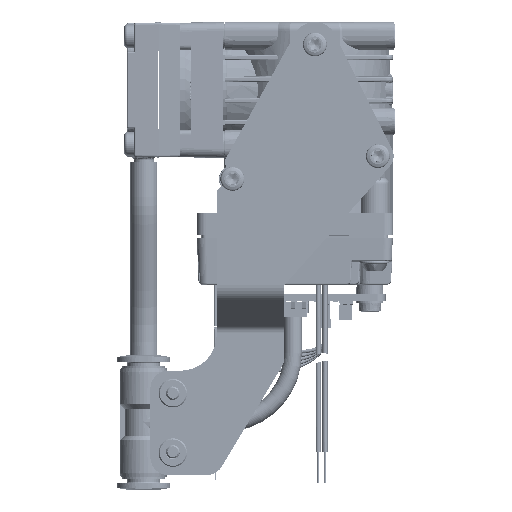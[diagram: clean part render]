
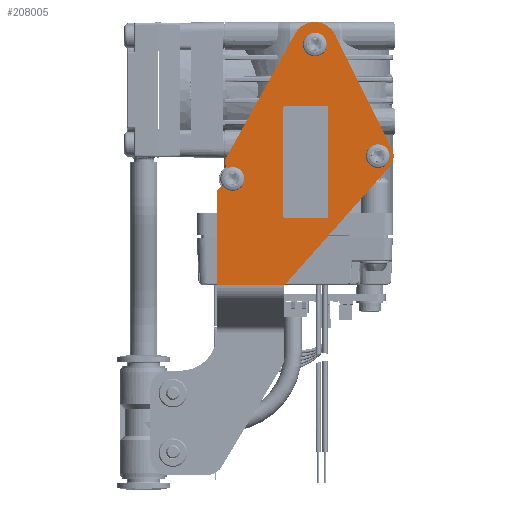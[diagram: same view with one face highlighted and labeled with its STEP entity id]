
A CAD part, left-side view. The second image highlights one B-rep face of the part: STEP entity #208005.
In plain terms, the highlighted planar face has unit normal (-1, 0, 0).
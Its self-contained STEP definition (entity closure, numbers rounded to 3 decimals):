
#45142=DIRECTION('',(0.,1.,0.));
#45143=VECTOR('',#45142,15.);
#45144=CARTESIAN_POINT('',(-18.7,6.8,-43.4));
#45145=LINE('',#45144,#45143);
#45359=CARTESIAN_POINT('',(-18.7,18.3,-19.75));
#45360=DIRECTION('',(1.,0.,0.));
#45361=DIRECTION('',(0.,0.,1.));
#45362=AXIS2_PLACEMENT_3D('',#45359,#45360,#45361);
#45364=CARTESIAN_POINT('',(-18.7,18.3,-19.75));
#45365=DIRECTION('',(1.,0.,0.));
#45366=DIRECTION('',(0.,0.421,0.907));
#45367=AXIS2_PLACEMENT_3D('',#45364,#45365,#45366);
#45369=CARTESIAN_POINT('',(-18.7,17.969,-16.065));
#45370=DIRECTION('',(-1.,0.,0.));
#45371=DIRECTION('',(0.,0.874,0.486));
#45372=AXIS2_PLACEMENT_3D('',#45369,#45370,#45371);
#45374=DIRECTION('',(0.,-0.486,0.874));
#45375=VECTOR('',#45374,31.599);
#45376=CARTESIAN_POINT('',(-18.7,19.717,-15.094));
#45377=LINE('',#45376,#45375);
#45378=CARTESIAN_POINT('',(-18.7,0.,10.1));
#45379=DIRECTION('',(1.,0.,0.));
#45380=DIRECTION('',(0.,0.874,0.486));
#45381=AXIS2_PLACEMENT_3D('',#45378,#45379,#45380);
#45383=DIRECTION('',(0.,-0.445,-0.896));
#45384=VECTOR('',#45383,28.439);
#45385=CARTESIAN_POINT('',(-18.7,-4.478,12.325));
#45386=LINE('',#45385,#45384);
#45387=CARTESIAN_POINT('',(-18.7,-14.,-14.7));
#45388=DIRECTION('',(1.,0.,0.));
#45389=DIRECTION('',(0.,-0.896,0.445));
#45390=AXIS2_PLACEMENT_3D('',#45387,#45388,#45389);
#45392=DIRECTION('',(0.,0.664,-0.748));
#45393=VECTOR('',#45392,35.272);
#45394=CARTESIAN_POINT('',(-18.7,-16.617,-17.024));
#45395=LINE('',#45394,#45393);
#45396=DIRECTION('',(0.,0.,-1.));
#45397=VECTOR('',#45396,20.268);
#45398=CARTESIAN_POINT('',(-18.7,21.8,-23.132));
#45399=LINE('',#45398,#45397);
#45400=CARTESIAN_POINT('',(-18.7,19.8,-23.132));
#45401=DIRECTION('',(-1.,0.,0.));
#45402=DIRECTION('',(0.,0.241,0.971));
#45403=AXIS2_PLACEMENT_3D('',#45400,#45401,#45402);
#45405=CARTESIAN_POINT('',(-18.7,18.3,-19.75));
#45406=DIRECTION('',(1.,0.,0.));
#45407=DIRECTION('',(0.,0.,-1.));
#45408=AXIS2_PLACEMENT_3D('',#45405,#45406,#45407);
#45410=CARTESIAN_POINT('',(-18.7,0.,10.1));
#45411=DIRECTION('',(1.,0.,0.));
#45412=DIRECTION('',(0.,0.,1.));
#45413=AXIS2_PLACEMENT_3D('',#45410,#45411,#45412);
#45415=CARTESIAN_POINT('',(-18.7,0.,10.1));
#45416=DIRECTION('',(1.,0.,0.));
#45417=DIRECTION('',(0.,0.,-1.));
#45418=AXIS2_PLACEMENT_3D('',#45415,#45416,#45417);
#45420=CARTESIAN_POINT('',(-18.7,-14.,-14.7));
#45421=DIRECTION('',(1.,0.,0.));
#45422=DIRECTION('',(0.,0.,1.));
#45423=AXIS2_PLACEMENT_3D('',#45420,#45421,#45422);
#45425=CARTESIAN_POINT('',(-18.7,-14.,-14.7));
#45426=DIRECTION('',(1.,0.,0.));
#45427=DIRECTION('',(0.,0.,-1.));
#45428=AXIS2_PLACEMENT_3D('',#45425,#45426,#45427);
#45430=DIRECTION('',(0.,0.,1.));
#45431=VECTOR('',#45430,24.);
#45432=CARTESIAN_POINT('',(-18.7,-3.,-28.));
#45433=LINE('',#45432,#45431);
#45434=CARTESIAN_POINT('',(-18.7,-2.5,-4.));
#45435=DIRECTION('',(-1.,0.,0.));
#45436=DIRECTION('',(0.,-1.,0.));
#45437=AXIS2_PLACEMENT_3D('',#45434,#45435,#45436);
#45439=DIRECTION('',(0.,1.,0.));
#45440=VECTOR('',#45439,9.);
#45441=CARTESIAN_POINT('',(-18.7,-2.5,-3.5));
#45442=LINE('',#45441,#45440);
#45443=CARTESIAN_POINT('',(-18.7,6.5,-4.));
#45444=DIRECTION('',(1.,0.,0.));
#45445=DIRECTION('',(0.,1.,0.));
#45446=AXIS2_PLACEMENT_3D('',#45443,#45444,#45445);
#45448=DIRECTION('',(0.,0.,1.));
#45449=VECTOR('',#45448,24.);
#45450=CARTESIAN_POINT('',(-18.7,7.,-28.));
#45451=LINE('',#45450,#45449);
#45452=CARTESIAN_POINT('',(-18.7,6.5,-28.));
#45453=DIRECTION('',(-1.,0.,0.));
#45454=DIRECTION('',(0.,1.,0.));
#45455=AXIS2_PLACEMENT_3D('',#45452,#45453,#45454);
#45457=DIRECTION('',(0.,1.,0.));
#45458=VECTOR('',#45457,9.);
#45459=CARTESIAN_POINT('',(-18.7,-2.5,-28.5));
#45460=LINE('',#45459,#45458);
#45461=CARTESIAN_POINT('',(-18.7,-2.5,-28.));
#45462=DIRECTION('',(1.,0.,0.));
#45463=DIRECTION('',(0.,-1.,0.));
#45464=AXIS2_PLACEMENT_3D('',#45461,#45462,#45463);
#143980=CARTESIAN_POINT('',(-18.7,-17.134,-13.142));
#143981=CARTESIAN_POINT('',(-18.7,-16.617,-17.024));
#143982=VERTEX_POINT('',#143980);
#143983=VERTEX_POINT('',#143981);
#143984=CARTESIAN_POINT('',(-18.7,6.8,-43.4));
#143985=VERTEX_POINT('',#143984);
#143986=CARTESIAN_POINT('',(-18.7,4.371,12.528));
#143987=CARTESIAN_POINT('',(-18.7,-4.478,12.325));
#143988=VERTEX_POINT('',#143986);
#143989=VERTEX_POINT('',#143987);
#143998=CARTESIAN_POINT('',(-18.7,21.8,-43.4));
#143999=VERTEX_POINT('',#143998);
#144059=CARTESIAN_POINT('',(-18.7,19.717,-15.094));
#144061=VERTEX_POINT('',#144059);
#144062=CARTESIAN_POINT('',(-18.7,21.8,-23.132));
#144064=VERTEX_POINT('',#144062);
#144747=CARTESIAN_POINT('',(-18.7,18.3,-17.3));
#144748=CARTESIAN_POINT('',(-18.7,18.3,-22.2));
#144749=VERTEX_POINT('',#144747);
#144750=VERTEX_POINT('',#144748);
#144751=CARTESIAN_POINT('',(-18.7,20.282,-21.191));
#144752=VERTEX_POINT('',#144751);
#144753=CARTESIAN_POINT('',(-18.7,19.333,-17.528));
#144754=VERTEX_POINT('',#144753);
#144935=CARTESIAN_POINT('',(-18.7,0.,12.55));
#144936=CARTESIAN_POINT('',(-18.7,0.,7.65));
#144937=VERTEX_POINT('',#144935);
#144938=VERTEX_POINT('',#144936);
#145105=CARTESIAN_POINT('',(-18.7,-14.,-12.25));
#145106=CARTESIAN_POINT('',(-18.7,-14.,-17.15));
#145107=VERTEX_POINT('',#145105);
#145108=VERTEX_POINT('',#145106);
#145664=CARTESIAN_POINT('',(-18.7,-3.,-28.));
#145665=CARTESIAN_POINT('',(-18.7,-3.,-4.));
#145666=VERTEX_POINT('',#145664);
#145667=VERTEX_POINT('',#145665);
#145668=CARTESIAN_POINT('',(-18.7,7.,-28.));
#145669=CARTESIAN_POINT('',(-18.7,7.,-4.));
#145670=VERTEX_POINT('',#145668);
#145671=VERTEX_POINT('',#145669);
#145672=CARTESIAN_POINT('',(-18.7,-2.5,-28.5));
#145673=CARTESIAN_POINT('',(-18.7,6.5,-28.5));
#145674=VERTEX_POINT('',#145672);
#145675=VERTEX_POINT('',#145673);
#145676=CARTESIAN_POINT('',(-18.7,-2.5,-3.5));
#145677=CARTESIAN_POINT('',(-18.7,6.5,-3.5));
#145678=VERTEX_POINT('',#145676);
#145679=VERTEX_POINT('',#145677);
#207951=CARTESIAN_POINT('',(-18.7,-17.5,-43.4));
#207952=DIRECTION('',(-1.,0.,0.));
#207953=DIRECTION('',(0.,0.,1.));
#207954=AXIS2_PLACEMENT_3D('',#207951,#207952,#207953);
#207955=PLANE('',#207954);
#207957=ORIENTED_EDGE('',*,*,#207956,.F.);
#207959=ORIENTED_EDGE('',*,*,#207958,.F.);
#207960=ORIENTED_EDGE('',*,*,#207835,.F.);
#207961=ORIENTED_EDGE('',*,*,#207856,.T.);
#207962=ORIENTED_EDGE('',*,*,#207876,.T.);
#207963=ORIENTED_EDGE('',*,*,#207897,.T.);
#207964=ORIENTED_EDGE('',*,*,#207918,.T.);
#207965=ORIENTED_EDGE('',*,*,#207938,.T.);
#207966=ORIENTED_EDGE('',*,*,#207562,.T.);
#207968=ORIENTED_EDGE('',*,*,#207967,.F.);
#207970=ORIENTED_EDGE('',*,*,#207969,.F.);
#207972=ORIENTED_EDGE('',*,*,#207971,.F.);
#207973=EDGE_LOOP('',(#207957,#207959,#207960,#207961,#207962,#207963,#207964,
#207965,#207966,#207968,#207970,#207972));
#207974=FACE_OUTER_BOUND('',#207973,.F.);
#207976=ORIENTED_EDGE('',*,*,#207975,.F.);
#207978=ORIENTED_EDGE('',*,*,#207977,.F.);
#207979=EDGE_LOOP('',(#207976,#207978));
#207980=FACE_BOUND('',#207979,.F.);
#207982=ORIENTED_EDGE('',*,*,#207981,.F.);
#207984=ORIENTED_EDGE('',*,*,#207983,.F.);
#207985=EDGE_LOOP('',(#207982,#207984));
#207986=FACE_BOUND('',#207985,.F.);
#207988=ORIENTED_EDGE('',*,*,#207987,.T.);
#207990=ORIENTED_EDGE('',*,*,#207989,.T.);
#207992=ORIENTED_EDGE('',*,*,#207991,.T.);
#207994=ORIENTED_EDGE('',*,*,#207993,.F.);
#207996=ORIENTED_EDGE('',*,*,#207995,.F.);
#207998=ORIENTED_EDGE('',*,*,#207997,.T.);
#208000=ORIENTED_EDGE('',*,*,#207999,.F.);
#208002=ORIENTED_EDGE('',*,*,#208001,.F.);
#208003=EDGE_LOOP('',(#207988,#207990,#207992,#207994,#207996,#207998,#208000,
#208002));
#208004=FACE_BOUND('',#208003,.F.);
#45363=CIRCLE('',#45362,2.45);
#45368=CIRCLE('',#45367,2.45);
#45373=CIRCLE('',#45372,2.);
#45382=CIRCLE('',#45381,5.);
#45391=CIRCLE('',#45390,3.5);
#45404=CIRCLE('',#45403,2.);
#45409=CIRCLE('',#45408,2.45);
#45414=CIRCLE('',#45413,2.45);
#45419=CIRCLE('',#45418,2.45);
#45424=CIRCLE('',#45423,2.45);
#45429=CIRCLE('',#45428,2.45);
#45438=CIRCLE('',#45437,0.5);
#45447=CIRCLE('',#45446,0.5);
#45456=CIRCLE('',#45455,0.5);
#45465=CIRCLE('',#45464,0.5);
#207562=EDGE_CURVE('',#143985,#143999,#45145,.T.);
#207835=EDGE_CURVE('',#144061,#144754,#45373,.T.);
#207856=EDGE_CURVE('',#144061,#143988,#45377,.T.);
#207876=EDGE_CURVE('',#143988,#143989,#45382,.T.);
#207897=EDGE_CURVE('',#143989,#143982,#45386,.T.);
#207918=EDGE_CURVE('',#143982,#143983,#45391,.T.);
#207938=EDGE_CURVE('',#143983,#143985,#45395,.T.);
#207956=EDGE_CURVE('',#144749,#144750,#45363,.T.);
#207958=EDGE_CURVE('',#144754,#144749,#45368,.T.);
#207967=EDGE_CURVE('',#144064,#143999,#45399,.T.);
#207969=EDGE_CURVE('',#144752,#144064,#45404,.T.);
#207971=EDGE_CURVE('',#144750,#144752,#45409,.T.);
#207975=EDGE_CURVE('',#144937,#144938,#45414,.T.);
#207977=EDGE_CURVE('',#144938,#144937,#45419,.T.);
#207981=EDGE_CURVE('',#145107,#145108,#45424,.T.);
#207983=EDGE_CURVE('',#145108,#145107,#45429,.T.);
#207987=EDGE_CURVE('',#145666,#145667,#45433,.T.);
#207989=EDGE_CURVE('',#145667,#145678,#45438,.T.);
#207991=EDGE_CURVE('',#145678,#145679,#45442,.T.);
#207993=EDGE_CURVE('',#145671,#145679,#45447,.T.);
#207995=EDGE_CURVE('',#145670,#145671,#45451,.T.);
#207997=EDGE_CURVE('',#145670,#145675,#45456,.T.);
#207999=EDGE_CURVE('',#145674,#145675,#45460,.T.);
#208001=EDGE_CURVE('',#145666,#145674,#45465,.T.);
#208005=ADVANCED_FACE('',(#207974,#207980,#207986,#208004),#207955,.T.);
